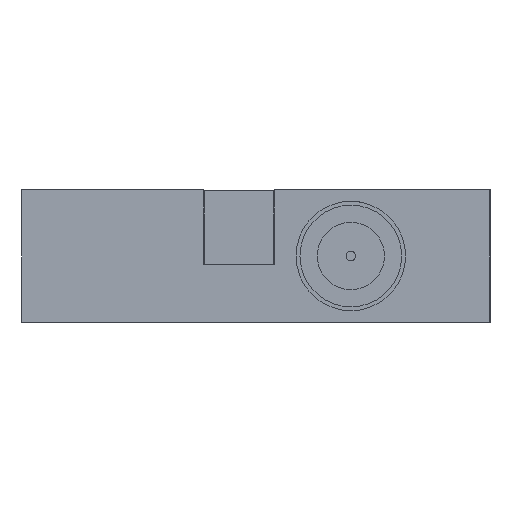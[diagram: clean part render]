
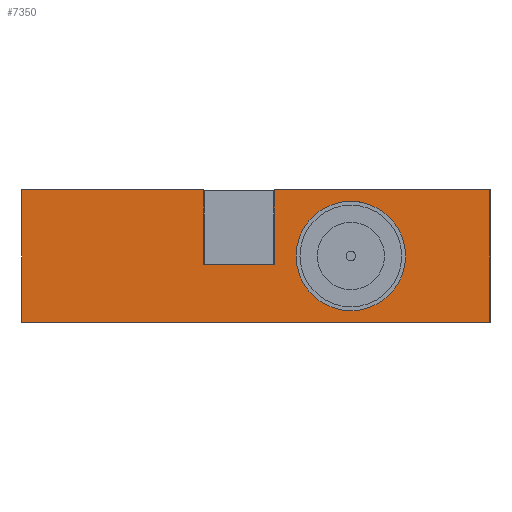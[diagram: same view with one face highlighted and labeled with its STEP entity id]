
A CAD part, left-side view. The second image highlights one B-rep face of the part: STEP entity #7350.
In plain terms, the highlighted planar face has unit normal (-1, 0, 0).
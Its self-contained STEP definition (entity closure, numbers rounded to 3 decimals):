
#309=FACE_BOUND('',#1446,.T.);
#566=PLANE('',#7823);
#1010=FACE_OUTER_BOUND('',#1445,.T.);
#1445=EDGE_LOOP('',(#6509,#6510,#6511,#6512,#6513,#6514,#6515,#6516));
#1446=EDGE_LOOP('',(#6517));
#1577=LINE('',#9837,#2236);
#2088=LINE('',#12688,#2747);
#2090=LINE('',#12691,#2749);
#2108=LINE('',#12731,#2767);
#2110=LINE('',#12735,#2769);
#2111=LINE('',#12738,#2770);
#2120=LINE('',#12755,#2779);
#2121=LINE('',#12757,#2780);
#2236=VECTOR('',#8197,10.);
#2747=VECTOR('',#9304,10.);
#2749=VECTOR('',#9308,10.);
#2767=VECTOR('',#9346,10.);
#2769=VECTOR('',#9350,10.);
#2770=VECTOR('',#9353,10.);
#2779=VECTOR('',#9370,10.);
#2780=VECTOR('',#9373,10.);
#2893=CIRCLE('',#7695,1.778);
#3071=VERTEX_POINT('',#9834);
#3072=VERTEX_POINT('',#9836);
#3333=VERTEX_POINT('',#10984);
#3562=VERTEX_POINT('',#12685);
#3563=VERTEX_POINT('',#12687);
#3575=VERTEX_POINT('',#12729);
#3576=VERTEX_POINT('',#12733);
#3577=VERTEX_POINT('',#12737);
#3581=VERTEX_POINT('',#12753);
#3776=EDGE_CURVE('',#3072,#3071,#1577,.T.);
#4181=EDGE_CURVE('',#3333,#3333,#2893,.T.);
#4531=EDGE_CURVE('',#3562,#3563,#2088,.T.);
#4533=EDGE_CURVE('',#3072,#3562,#2090,.T.);
#4553=EDGE_CURVE('',#3071,#3575,#2108,.T.);
#4555=EDGE_CURVE('',#3576,#3575,#2110,.T.);
#4556=EDGE_CURVE('',#3577,#3563,#2111,.T.);
#4565=EDGE_CURVE('',#3576,#3581,#2120,.T.);
#4566=EDGE_CURVE('',#3577,#3581,#2121,.T.);
#6509=ORIENTED_EDGE('',*,*,#3776,.T.);
#6510=ORIENTED_EDGE('',*,*,#4553,.T.);
#6511=ORIENTED_EDGE('',*,*,#4555,.F.);
#6512=ORIENTED_EDGE('',*,*,#4565,.T.);
#6513=ORIENTED_EDGE('',*,*,#4566,.F.);
#6514=ORIENTED_EDGE('',*,*,#4556,.T.);
#6515=ORIENTED_EDGE('',*,*,#4531,.F.);
#6516=ORIENTED_EDGE('',*,*,#4533,.F.);
#6517=ORIENTED_EDGE('',*,*,#4181,.T.);
#7350=ADVANCED_FACE('',(#1010,#309),#566,.T.);
#7695=AXIS2_PLACEMENT_3D('',#10985,#8885,#8886);
#7823=AXIS2_PLACEMENT_3D('',#12756,#9371,#9372);
#8197=DIRECTION('',(0.,1.,0.));
#8885=DIRECTION('center_axis',(1.,0.,0.));
#8886=DIRECTION('ref_axis',(0.,0.,
-1.));
#9304=DIRECTION('',(0.,-1.,0.));
#9308=DIRECTION('',(0.,0.,1.));
#9346=DIRECTION('',(0.,0.,1.));
#9350=DIRECTION('',(0.,-1.,0.));
#9353=DIRECTION('',(0.,0.,1.));
#9370=DIRECTION('',(0.,0.,-1.));
#9371=DIRECTION('center_axis',(-1.,0.,0.));
#9372=DIRECTION('ref_axis',(0.,1.,0.));
#9373=DIRECTION('',(0.,1.,0.));
#9834=CARTESIAN_POINT('',(-11.323,-13.429,1.87));
#9836=CARTESIAN_POINT('',(-11.323,-15.729,1.87));
#9837=CARTESIAN_POINT('',(-11.323,-22.729,1.87));
#10984=CARTESIAN_POINT('',(-11.323,-18.209,3.928));
#10985=CARTESIAN_POINT('Origin',(-11.323,-18.209,2.15));
#12685=CARTESIAN_POINT('',(-11.323,-15.729,4.3));
#12687=CARTESIAN_POINT('',(-11.323,-22.729,4.3));
#12688=CARTESIAN_POINT('',(-11.323,-7.529,4.3));
#12691=CARTESIAN_POINT('',(-11.323,-15.729,1.87));
#12729=CARTESIAN_POINT('',(-11.323,-13.429,4.3));
#12731=CARTESIAN_POINT('',(-11.323,-13.429,1.87));
#12733=CARTESIAN_POINT('',(-11.323,-7.529,4.3));
#12735=CARTESIAN_POINT('',(-11.323,-7.529,4.3));
#12737=CARTESIAN_POINT('',(-11.323,-22.729,0.));
#12738=CARTESIAN_POINT('',(-11.323,-22.729,1.87));
#12753=CARTESIAN_POINT('',(-11.323,-7.529,0.));
#12755=CARTESIAN_POINT('',(-11.323,-7.529,1.87));
#12756=CARTESIAN_POINT('Origin',(-11.323,-22.729,1.87));
#12757=CARTESIAN_POINT('',(-11.323,-22.729,0.));
